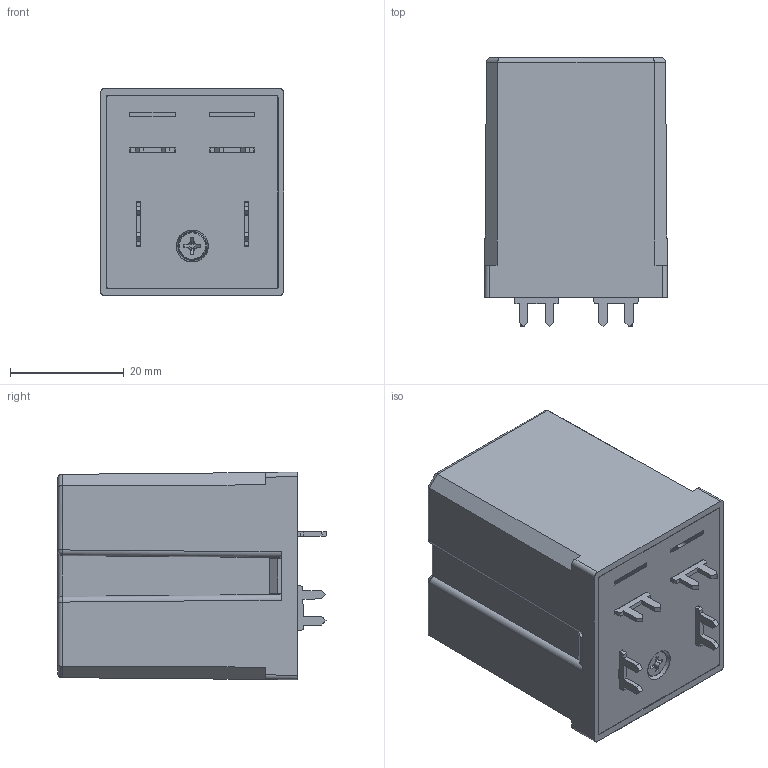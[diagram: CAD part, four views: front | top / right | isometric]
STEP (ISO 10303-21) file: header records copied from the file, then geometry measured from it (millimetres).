
FILE_DESCRIPTION(('STEP AP214'),'2;1');
FILE_NAME('6561xxxx0300.stp','2011-05-19T16:00:50',(''),(''),'2007.1.106','THINKDESIGN','');
FILE_SCHEMA(('AUTOMOTIVE_DESIGN'));
Length unit declared in the file: millimetre
Products named in the file (1): None
Bounding box: 32.3 x 47.25 x 36.5 mm (x, y, z)
Surface area: 8203.1 mm2 (no closed solid volume)
Topology: 0 solids, 0 shells, 149 faces, 830 edges, 850 vertices
Faces by surface type: plane 85, bspline 42, cylinder 22
Full cylindrical faces by diameter (mm): 2 x1, 5 x1
Entity records: 9714 total; most frequent: CARTESIAN_POINT 3863, DIRECTION 848, COMPOSITE_CURVE_SEGMENT 806, TRIMMED_CURVE 622, VECTOR 618, LINE 618, B_SPLINE_CURVE_WITH_KNOTS 176, STYLED_ITEM 173
